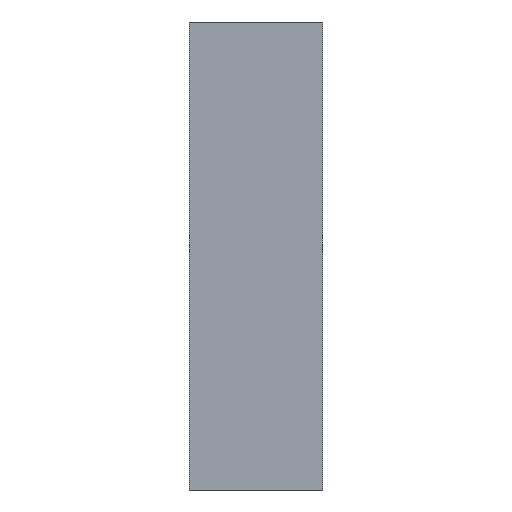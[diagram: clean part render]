
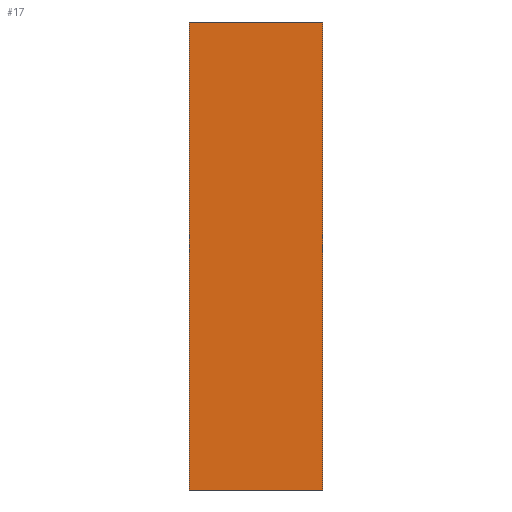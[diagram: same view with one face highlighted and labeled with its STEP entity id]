
A CAD part, left-side view. The second image highlights one B-rep face of the part: STEP entity #17.
In plain terms, the highlighted planar face has unit normal (-1, 0, 0).
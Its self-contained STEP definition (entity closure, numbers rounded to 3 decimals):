
#17 = ADVANCED_FACE('',(#18),#32,.F.);
#18 = FACE_BOUND('',#19,.F.);
#19 = EDGE_LOOP('',(#20,#55,#83,#111));
#20 = ORIENTED_EDGE('',*,*,#21,.F.);
#21 = EDGE_CURVE('',#22,#24,#26,.T.);
#22 = VERTEX_POINT('',#23);
#23 = CARTESIAN_POINT('',(-527.,-150.913,-80.));
#24 = VERTEX_POINT('',#25);
#25 = CARTESIAN_POINT('',(-527.,-150.913,-52.));
#26 = SURFACE_CURVE('',#27,(#31,#43),.PCURVE_S1.);
#27 = LINE('',#28,#29);
#28 = CARTESIAN_POINT('',(-527.,-150.913,-80.));
#29 = VECTOR('',#30,1.);
#30 = DIRECTION('',(0.,0.,1.));
#31 = PCURVE('',#32,#37);
#32 = PLANE('',#33);
#33 = AXIS2_PLACEMENT_3D('',#34,#35,#36);
#34 = CARTESIAN_POINT('',(-527.,-150.913,-80.));
#35 = DIRECTION('',(1.,0.,-0.));
#36 = DIRECTION('',(0.,0.,1.));
#37 = DEFINITIONAL_REPRESENTATION('',(#38),#42);
#38 = LINE('',#39,#40);
#39 = CARTESIAN_POINT('',(0.,0.));
#40 = VECTOR('',#41,1.);
#41 = DIRECTION('',(1.,0.));
#42 = ( GEOMETRIC_REPRESENTATION_CONTEXT(2) 
PARAMETRIC_REPRESENTATION_CONTEXT() REPRESENTATION_CONTEXT('2D SPACE',''
  ) );
#43 = PCURVE('',#44,#49);
#44 = PLANE('',#45);
#45 = AXIS2_PLACEMENT_3D('',#46,#47,#48);
#46 = CARTESIAN_POINT('',(-527.,-150.913,-80.));
#47 = DIRECTION('',(-0.,1.,0.));
#48 = DIRECTION('',(0.,0.,1.));
#49 = DEFINITIONAL_REPRESENTATION('',(#50),#54);
#50 = LINE('',#51,#52);
#51 = CARTESIAN_POINT('',(0.,0.));
#52 = VECTOR('',#53,1.);
#53 = DIRECTION('',(1.,0.));
#54 = ( GEOMETRIC_REPRESENTATION_CONTEXT(2) 
PARAMETRIC_REPRESENTATION_CONTEXT() REPRESENTATION_CONTEXT('2D SPACE',''
  ) );
#55 = ORIENTED_EDGE('',*,*,#56,.T.);
#56 = EDGE_CURVE('',#22,#57,#59,.T.);
#57 = VERTEX_POINT('',#58);
#58 = CARTESIAN_POINT('',(-527.,-142.913,-80.));
#59 = SURFACE_CURVE('',#60,(#64,#71),.PCURVE_S1.);
#60 = LINE('',#61,#62);
#61 = CARTESIAN_POINT('',(-527.,-150.913,-80.));
#62 = VECTOR('',#63,1.);
#63 = DIRECTION('',(-0.,1.,0.));
#64 = PCURVE('',#32,#65);
#65 = DEFINITIONAL_REPRESENTATION('',(#66),#70);
#66 = LINE('',#67,#68);
#67 = CARTESIAN_POINT('',(0.,0.));
#68 = VECTOR('',#69,1.);
#69 = DIRECTION('',(0.,-1.));
#70 = ( GEOMETRIC_REPRESENTATION_CONTEXT(2) 
PARAMETRIC_REPRESENTATION_CONTEXT() REPRESENTATION_CONTEXT('2D SPACE',''
  ) );
#71 = PCURVE('',#72,#77);
#72 = PLANE('',#73);
#73 = AXIS2_PLACEMENT_3D('',#74,#75,#76);
#74 = CARTESIAN_POINT('',(-527.,-150.913,-80.));
#75 = DIRECTION('',(0.,0.,1.));
#76 = DIRECTION('',(1.,0.,-0.));
#77 = DEFINITIONAL_REPRESENTATION('',(#78),#82);
#78 = LINE('',#79,#80);
#79 = CARTESIAN_POINT('',(0.,0.));
#80 = VECTOR('',#81,1.);
#81 = DIRECTION('',(0.,1.));
#82 = ( GEOMETRIC_REPRESENTATION_CONTEXT(2) 
PARAMETRIC_REPRESENTATION_CONTEXT() REPRESENTATION_CONTEXT('2D SPACE',''
  ) );
#83 = ORIENTED_EDGE('',*,*,#84,.T.);
#84 = EDGE_CURVE('',#57,#85,#87,.T.);
#85 = VERTEX_POINT('',#86);
#86 = CARTESIAN_POINT('',(-527.,-142.913,-52.));
#87 = SURFACE_CURVE('',#88,(#92,#99),.PCURVE_S1.);
#88 = LINE('',#89,#90);
#89 = CARTESIAN_POINT('',(-527.,-142.913,-80.));
#90 = VECTOR('',#91,1.);
#91 = DIRECTION('',(0.,0.,1.));
#92 = PCURVE('',#32,#93);
#93 = DEFINITIONAL_REPRESENTATION('',(#94),#98);
#94 = LINE('',#95,#96);
#95 = CARTESIAN_POINT('',(0.,-8.));
#96 = VECTOR('',#97,1.);
#97 = DIRECTION('',(1.,0.));
#98 = ( GEOMETRIC_REPRESENTATION_CONTEXT(2) 
PARAMETRIC_REPRESENTATION_CONTEXT() REPRESENTATION_CONTEXT('2D SPACE',''
  ) );
#99 = PCURVE('',#100,#105);
#100 = PLANE('',#101);
#101 = AXIS2_PLACEMENT_3D('',#102,#103,#104);
#102 = CARTESIAN_POINT('',(-527.,-142.913,-80.));
#103 = DIRECTION('',(-0.,1.,0.));
#104 = DIRECTION('',(0.,0.,1.));
#105 = DEFINITIONAL_REPRESENTATION('',(#106),#110);
#106 = LINE('',#107,#108);
#107 = CARTESIAN_POINT('',(0.,0.));
#108 = VECTOR('',#109,1.);
#109 = DIRECTION('',(1.,0.));
#110 = ( GEOMETRIC_REPRESENTATION_CONTEXT(2) 
PARAMETRIC_REPRESENTATION_CONTEXT() REPRESENTATION_CONTEXT('2D SPACE',''
  ) );
#111 = ORIENTED_EDGE('',*,*,#112,.F.);
#112 = EDGE_CURVE('',#24,#85,#113,.T.);
#113 = SURFACE_CURVE('',#114,(#118,#125),.PCURVE_S1.);
#114 = LINE('',#115,#116);
#115 = CARTESIAN_POINT('',(-527.,-150.913,-52.));
#116 = VECTOR('',#117,1.);
#117 = DIRECTION('',(-0.,1.,0.));
#118 = PCURVE('',#32,#119);
#119 = DEFINITIONAL_REPRESENTATION('',(#120),#124);
#120 = LINE('',#121,#122);
#121 = CARTESIAN_POINT('',(28.,0.));
#122 = VECTOR('',#123,1.);
#123 = DIRECTION('',(0.,-1.));
#124 = ( GEOMETRIC_REPRESENTATION_CONTEXT(2) 
PARAMETRIC_REPRESENTATION_CONTEXT() REPRESENTATION_CONTEXT('2D SPACE',''
  ) );
#125 = PCURVE('',#126,#131);
#126 = PLANE('',#127);
#127 = AXIS2_PLACEMENT_3D('',#128,#129,#130);
#128 = CARTESIAN_POINT('',(-527.,-150.913,-52.));
#129 = DIRECTION('',(0.,0.,1.));
#130 = DIRECTION('',(1.,0.,-0.));
#131 = DEFINITIONAL_REPRESENTATION('',(#132),#136);
#132 = LINE('',#133,#134);
#133 = CARTESIAN_POINT('',(0.,0.));
#134 = VECTOR('',#135,1.);
#135 = DIRECTION('',(0.,1.));
#136 = ( GEOMETRIC_REPRESENTATION_CONTEXT(2) 
PARAMETRIC_REPRESENTATION_CONTEXT() REPRESENTATION_CONTEXT('2D SPACE',''
  ) );
